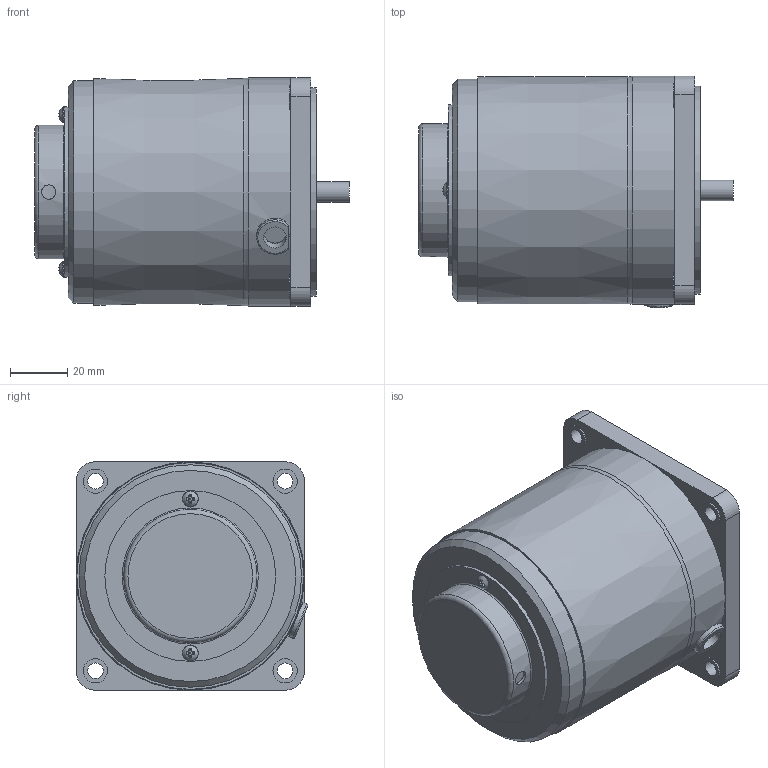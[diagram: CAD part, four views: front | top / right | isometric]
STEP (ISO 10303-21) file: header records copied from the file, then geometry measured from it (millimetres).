
FILE_DESCRIPTION((''),'2;1');
FILE_NAME('D:\STP파일\25W MOTOR\SPEED CONTROL TYPE\S8I15G-S.stp','2013-05-20T16:40:55',('leebh'),(''),'Autodesk Inventor 2011','Autodesk Inventor 2011','');
FILE_SCHEMA(('AUTOMOTIVE_DESIGN { 1 0 10303 214 1 1 1 1 }'));
Length unit declared in the file: millimetre
Products named in the file (1): 부품3
Bounding box: 110.4 x 81.2 x 80 mm (x, y, z)
Volume: 448500.9 mm3; surface area: 39712.1 mm2
Topology: 1 solids, 6 shells, 141 faces, 317 edges, 205 vertices
Faces by surface type: plane 85, cylinder 43, torus 9, bspline 2, cone 2
Full cylindrical faces by diameter (mm): 3 x2, 3.5 x2, 5 x1, 5.5 x4, 5.6 x2, 7.2 x1, 8 x1, 8.5 x4, 34 x1, 44.7 x1, 46.7 x1, 47.7 x1, 59.9 x1, 73 x1, 78 x1, 80 x1
Entity records: 4067 total; most frequent: CARTESIAN_POINT 958, DIRECTION 624, ORIENTED_EDGE 556, EDGE_CURVE 278, AXIS2_PLACEMENT_3D 237, EDGE_LOOP 209, VERTEX_POINT 203, VECTOR 150
